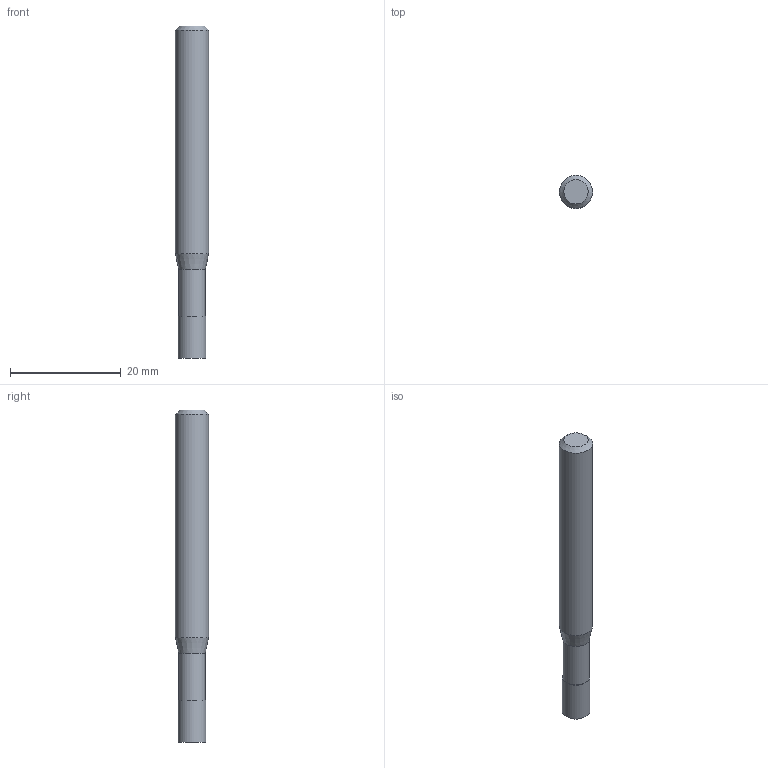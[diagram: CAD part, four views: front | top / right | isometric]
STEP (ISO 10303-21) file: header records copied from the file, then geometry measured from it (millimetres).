
FILE_DESCRIPTION((''),'2;1');
FILE_NAME('C:\Users\nsx150\AppData\Local\Temp\Mastercam 2021\17T8Q8S9EB\TEMP.step','2021-04-21T14:28:54',(''),(''),'STEP Write','Mastercam 2021 ... CNC Software, Inc.','');
FILE_SCHEMA(('AUTOMOTIVE_DESIGN'));
Length unit declared in the file: millimetre
Products named in the file (1): None
Bounding box: 6 x 6 x 60 mm (x, y, z)
Volume: 1524.8 mm3; surface area: 1147.1 mm2
Topology: 2 solids, 2 shells, 9 faces, 12 edges, 7 vertices
Faces by surface type: plane 4, cylinder 3, cone 2
Full cylindrical faces by diameter (mm): 4.8 x1, 5 x1, 6 x1
Entity records: 211 total; most frequent: DIRECTION 36, CARTESIAN_POINT 25, AXIS2_PLACEMENT_3D 18, ORIENTED_EDGE 14, EDGE_LOOP 14, STYLED_ITEM 12, ADVANCED_FACE 9, FACE_BOUND 8
